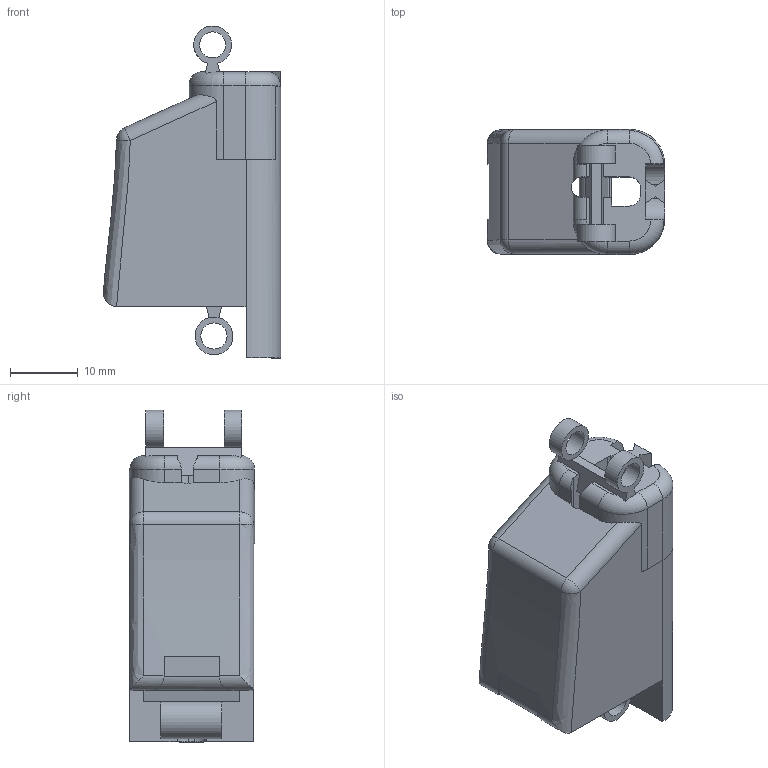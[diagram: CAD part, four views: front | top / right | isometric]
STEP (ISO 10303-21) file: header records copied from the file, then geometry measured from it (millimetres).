
FILE_DESCRIPTION(/* description */ ('STEP AP242 Edition 2','CAx-IF Rec.Pracs.---Representation and Presentation of Product Manufacturing Information (PMI)---4.0---2014-10-13','CAx-IF Rec.Pracs.---3D Tessellated Geometry---0.4---2014-09-14','2;1','CAx-IF Rec.Pracs.---User Defined Attributes---1.5---2016-08-15'),/* implementation_level */ '2;1');
FILE_NAME(/* name */ 'Main Assembly - Pinky Mih',/* time_stamp */ '2026-06-22T17:37:58Z',/* author */ (''),/* organization */ (''),/* preprocessor_version */ 'ST-DEVELOPER v20',/* originating_system */ 'ONSHAPE BY PTC INC, 1.216',/* authorisation */ ' ');
FILE_SCHEMA (('AP242_MANAGED_MODEL_BASED_3D_ENGINEERING_MIM_LF { 1 0 10303 442 3 1 4 }'));
Length unit declared in the file: metre
Products named in the file (1): Pinky Mih
Bounding box: 26.2 x 18.49 x 49.09 mm (x, y, z)
Volume: 13480 mm3; surface area: 5344.9 mm2
Topology: 1 solids, 1 shells, 116 faces, 327 edges, 207 vertices
Faces by surface type: plane 68, cylinder 33, torus 6, cone 4, bspline 3, sphere 2
Full cylindrical faces by diameter (mm): 3.865 x3
Entity records: 3842 total; most frequent: CARTESIAN_POINT 814, ORIENTED_EDGE 644, DIRECTION 613, EDGE_CURVE 322, LINE 207, VECTOR 207, VERTEX_POINT 207, AXIS2_PLACEMENT_3D 203
